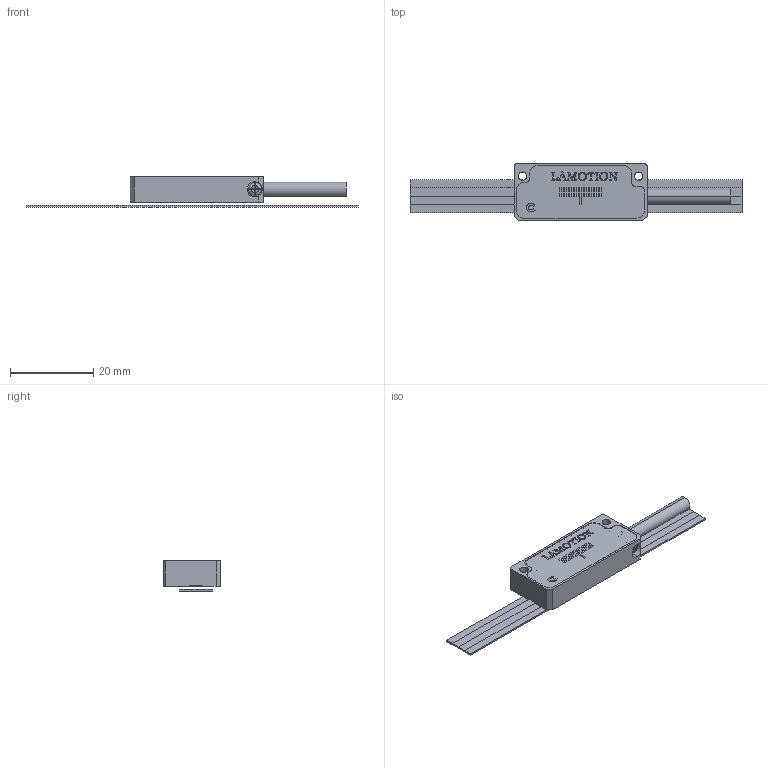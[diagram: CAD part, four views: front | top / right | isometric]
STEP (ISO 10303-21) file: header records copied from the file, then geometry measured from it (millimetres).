
FILE_DESCRIPTION (( 'STEP AP203' ), '1' );
FILE_NAME ('COIN假蚾尨砩芞.STEP', '2024-08-28T06:26:46', ( '' ), ( '' ), 'SwSTEP 2.0', 'SolidWorks 2024', '' );
FILE_SCHEMA (( 'CONFIG_CONTROL_DESIGN' ));
Length unit declared in the file: millimetre
Products named in the file (7): LM018-001-01 B 紧凑壳体; 8mm CL; LM018-002-01  打标; COIN安装示意图; 十字槽盘头螺钉 M2-2; COIN  装配体 202405W; COIN线缆
Assembly tree (6 placements, depth 3):
  COIN安装示意图
    8mm CL
    COIN  装配体 202405W
      LM018-002-01  打标
      十字槽盘头螺钉 M2-2
      LM018-001-01 B 紧凑壳体
      COIN线缆
Bounding box: 80 x 13.6 x 7.3 mm (x, y, z)
Volume: 1404.7 mm3; surface area: 4403 mm2
Topology: 5 solids, 5 shells, 454 faces, 1225 edges, 806 vertices
Faces by surface type: plane 294, cylinder 90, bspline 60, cone 8, torus 2
Entity records: 17947 total; most frequent: CARTESIAN_POINT 6144, ORIENTED_EDGE 2442, DIRECTION 2039, EDGE_CURVE 1221, VECTOR 881, LINE 881, VERTEX_POINT 806, AXIS2_PLACEMENT_3D 579
